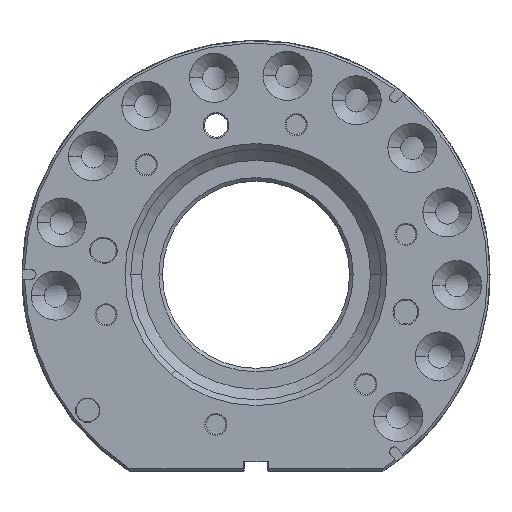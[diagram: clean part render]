
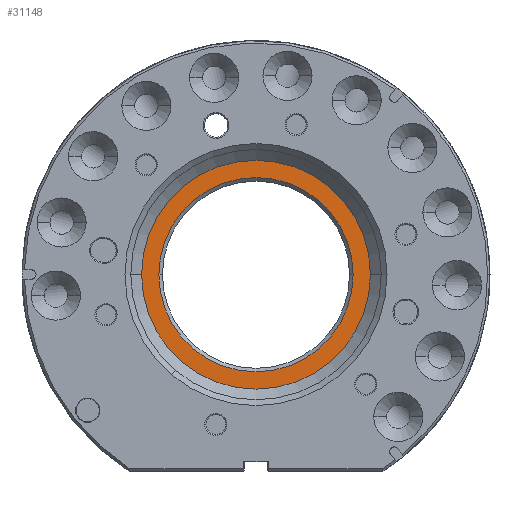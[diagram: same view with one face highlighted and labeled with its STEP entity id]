
A CAD part, top view. The second image highlights one B-rep face of the part: STEP entity #31148.
In plain terms, the highlighted planar face has unit normal (0, 0, 1).
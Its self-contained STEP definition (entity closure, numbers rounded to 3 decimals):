
#64 = VERTEX_POINT ( 'NONE', #24217 ) ;
#1779 = DIRECTION ( 'NONE',  ( 1., 0., 0. ) ) ;
#1787 = EDGE_CURVE ( 'NONE', #8560, #4676, #29804, .T. ) ;
#2173 = CARTESIAN_POINT ( 'NONE',  ( 40., 0., -30.1 ) ) ;
#2594 = CIRCLE ( 'NONE', #28121, 41.5 ) ;
#4676 = VERTEX_POINT ( 'NONE', #5193 ) ;
#5193 = CARTESIAN_POINT ( 'NONE',  ( -48.9, 0., -30.1 ) ) ;
#5464 = EDGE_CURVE ( 'NONE', #4676, #8560, #29640, .T. ) ;
#5758 = FACE_OUTER_BOUND ( 'NONE', #28831, .T. ) ;
#5944 = CARTESIAN_POINT ( 'NONE',  ( 0., 0., -30.1 ) ) ;
#6926 = ORIENTED_EDGE ( 'NONE', *, *, #5464, .F. ) ;
#8560 = VERTEX_POINT ( 'NONE', #11282 ) ;
#8936 = DIRECTION ( 'NONE',  ( 1., 0., 0. ) ) ;
#10468 = AXIS2_PLACEMENT_3D ( 'NONE', #12627, #33494, #15589 ) ;
#11119 = DIRECTION ( 'NONE',  ( 0., 0., -1. ) ) ;
#11282 = CARTESIAN_POINT ( 'NONE',  ( 48.9, 0., -30.1 ) ) ;
#12585 = AXIS2_PLACEMENT_3D ( 'NONE', #2173, #11119, #31983 ) ;
#12627 = CARTESIAN_POINT ( 'NONE',  ( 0., 0., -30.1 ) ) ;
#12815 = ORIENTED_EDGE ( 'NONE', *, *, #16807, .T. ) ;
#13075 = DIRECTION ( 'NONE',  ( 0., 0., -1. ) ) ;
#13100 = EDGE_LOOP ( 'NONE', ( #17192, #12815 ) ) ;
#15589 = DIRECTION ( 'NONE',  ( 1., 0., 0. ) ) ;
#16807 = EDGE_CURVE ( 'NONE', #33591, #64, #26351, .T. ) ;
#17192 = ORIENTED_EDGE ( 'NONE', *, *, #33127, .T. ) ;
#19517 = DIRECTION ( 'NONE',  ( 0., 0., -1. ) ) ;
#21550 = FACE_BOUND ( 'NONE', #13100, .T. ) ;
#21929 = PLANE ( 'NONE',  #12585 ) ;
#23235 = ORIENTED_EDGE ( 'NONE', *, *, #1787, .F. ) ;
#24217 = CARTESIAN_POINT ( 'NONE',  ( -41.5, 0., -30.1 ) ) ;
#26351 = CIRCLE ( 'NONE', #34943, 41.5 ) ;
#26779 = DIRECTION ( 'NONE',  ( 0., 0., -1. ) ) ;
#27535 = CARTESIAN_POINT ( 'NONE',  ( 41.5, 0., -30.1 ) ) ;
#28121 = AXIS2_PLACEMENT_3D ( 'NONE', #30952, #13075, #33949 ) ;
#28831 = EDGE_LOOP ( 'NONE', ( #6926, #23235 ) ) ;
#29640 = CIRCLE ( 'NONE', #10468, 48.9 ) ;
#29804 = CIRCLE ( 'NONE', #34103, 48.9 ) ;
#30952 = CARTESIAN_POINT ( 'NONE',  ( 0., 0., -30.1 ) ) ;
#31148 = ADVANCED_FACE ( 'NONE', ( #21550, #5758 ), #21929, .F. ) ;
#31983 = DIRECTION ( 'NONE',  ( 1., 0., 0. ) ) ;
#33127 = EDGE_CURVE ( 'NONE', #64, #33591, #2594, .T. ) ;
#33494 = DIRECTION ( 'NONE',  ( 0., 0., -1. ) ) ;
#33591 = VERTEX_POINT ( 'NONE', #27535 ) ;
#33949 = DIRECTION ( 'NONE',  ( 1., 0., 0. ) ) ;
#34103 = AXIS2_PLACEMENT_3D ( 'NONE', #37457, #19517, #1779 ) ;
#34943 = AXIS2_PLACEMENT_3D ( 'NONE', #5944, #26779, #8936 ) ;
#37457 = CARTESIAN_POINT ( 'NONE',  ( 0., 0., -30.1 ) ) ;
